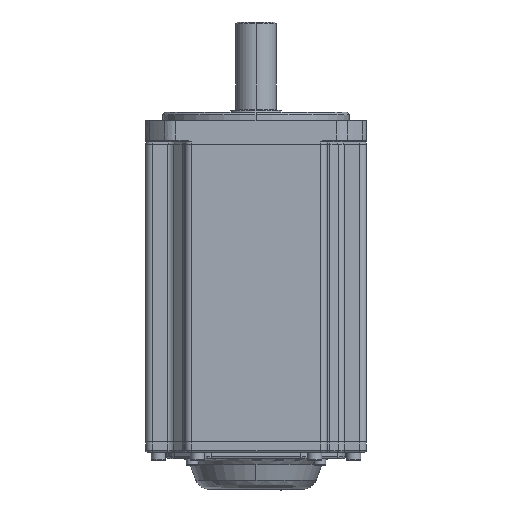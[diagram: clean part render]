
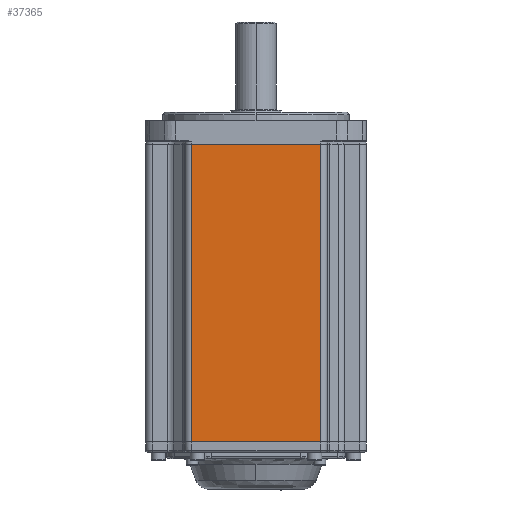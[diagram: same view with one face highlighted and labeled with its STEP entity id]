
A CAD part, front view. The second image highlights one B-rep face of the part: STEP entity #37365.
In plain terms, the highlighted planar face has unit normal (0, -1, 0).
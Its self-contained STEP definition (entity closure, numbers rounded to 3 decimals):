
#691 = VERTEX_POINT ( 'NONE', #11618 ) ;
#4427 = ORIENTED_EDGE ( 'NONE', *, *, #25022, .T. ) ;
#9131 = DIRECTION ( 'NONE',  ( 1., 0., 0. ) ) ;
#11618 = CARTESIAN_POINT ( 'NONE',  ( -38., -65., -127.2 ) ) ;
#12731 = VERTEX_POINT ( 'NONE', #58314 ) ;
#12765 = CARTESIAN_POINT ( 'NONE',  ( 38., -65., 872.8 ) ) ;
#14155 = AXIS2_PLACEMENT_3D ( 'NONE', #30297, #34061, #20401 ) ;
#15491 = EDGE_CURVE ( 'NONE', #51436, #17902, #26150, .T. ) ;
#17902 = VERTEX_POINT ( 'NONE', #50975 ) ;
#19497 = CARTESIAN_POINT ( 'NONE',  ( -42., -65., -127.2 ) ) ;
#19752 = VECTOR ( 'NONE', #44522, 1000. ) ;
#20401 = DIRECTION ( 'NONE',  ( 0., 0., 1. ) ) ;
#23936 = EDGE_CURVE ( 'NONE', #51436, #691, #45301, .T. ) ;
#24126 = DIRECTION ( 'NONE',  ( 1., 0., 0. ) ) ;
#25022 = EDGE_CURVE ( 'NONE', #12731, #17902, #45912, .T. ) ;
#25444 = PLANE ( 'NONE',  #14155 ) ;
#26150 = LINE ( 'NONE', #62119, #39733 ) ;
#30297 = CARTESIAN_POINT ( 'NONE',  ( -42., -65., 872.8 ) ) ;
#30599 = CARTESIAN_POINT ( 'NONE',  ( -38., -65., 872.8 ) ) ;
#31713 = ORIENTED_EDGE ( 'NONE', *, *, #62464, .T. ) ;
#34061 = DIRECTION ( 'NONE',  ( 0., 1., 0. ) ) ;
#36084 = FACE_OUTER_BOUND ( 'NONE', #53036, .T. ) ;
#37365 = ADVANCED_FACE ( 'NONE', ( #36084 ), #25444, .F. ) ;
#37591 = LINE ( 'NONE', #19497, #60158 ) ;
#38394 = ORIENTED_EDGE ( 'NONE', *, *, #23936, .T. ) ;
#39733 = VECTOR ( 'NONE', #9131, 1000. ) ;
#44522 = DIRECTION ( 'NONE',  ( 0., 0., -1. ) ) ;
#45301 = LINE ( 'NONE', #30599, #19752 ) ;
#45912 = LINE ( 'NONE', #12765, #49622 ) ;
#46008 = CARTESIAN_POINT ( 'NONE',  ( -38., -65., 47.8 ) ) ;
#49622 = VECTOR ( 'NONE', #51283, 1000. ) ;
#50975 = CARTESIAN_POINT ( 'NONE',  ( 38., -65., 47.8 ) ) ;
#51283 = DIRECTION ( 'NONE',  ( 0., 0., 1. ) ) ;
#51436 = VERTEX_POINT ( 'NONE', #46008 ) ;
#53036 = EDGE_LOOP ( 'NONE', ( #58576, #38394, #31713, #4427 ) ) ;
#58314 = CARTESIAN_POINT ( 'NONE',  ( 38., -65., -127.2 ) ) ;
#58576 = ORIENTED_EDGE ( 'NONE', *, *, #15491, .F. ) ;
#60158 = VECTOR ( 'NONE', #24126, 1000. ) ;
#62119 = CARTESIAN_POINT ( 'NONE',  ( -42., -65., 47.8 ) ) ;
#62464 = EDGE_CURVE ( 'NONE', #691, #12731, #37591, .T. ) ;
